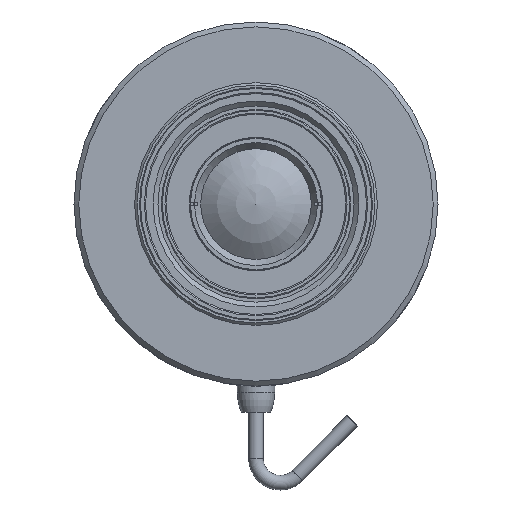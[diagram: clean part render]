
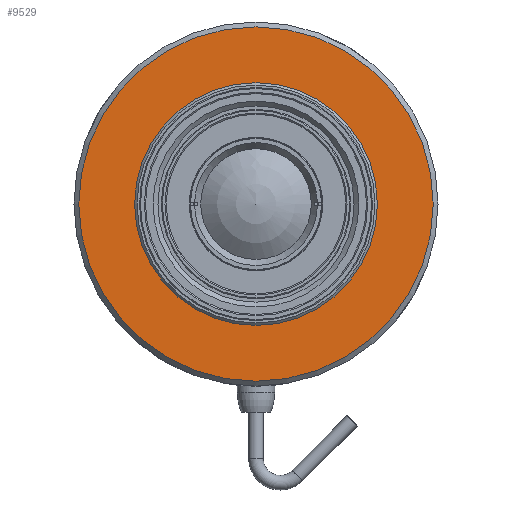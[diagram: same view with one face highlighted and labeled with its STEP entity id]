
A CAD part, front view. The second image highlights one B-rep face of the part: STEP entity #9529.
In plain terms, the highlighted planar face has unit normal (0, -1, 0).
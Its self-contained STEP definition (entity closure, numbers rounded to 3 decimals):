
#89=PLANE('',#9981);
#384=CIRCLE('',#9982,36.5);
#385=CIRCLE('',#9983,25.);
#1915=ORIENTED_EDGE('',*,*,#3702,.F.);
#1916=ORIENTED_EDGE('',*,*,#3703,.F.);
#3702=EDGE_CURVE('',#4594,#4594,#384,.T.);
#3703=EDGE_CURVE('',#4595,#4595,#385,.T.);
#4594=VERTEX_POINT('',#12652);
#4595=VERTEX_POINT('',#12654);
#5277=EDGE_LOOP('',(#1915));
#5278=EDGE_LOOP('',(#1916));
#5883=FACE_BOUND('',#5277,.T.);
#5884=FACE_BOUND('',#5278,.T.);
#9529=ADVANCED_FACE('',(#5883,#5884),#89,.F.);
#9981=AXIS2_PLACEMENT_3D('',#12650,#10658,#10659);
#9982=AXIS2_PLACEMENT_3D('',#12651,#10660,#10661);
#9983=AXIS2_PLACEMENT_3D('',#12653,#10662,#10663);
#10658=DIRECTION('',(0.,1.,0.));
#10659=DIRECTION('',(0.,0.,1.));
#10660=DIRECTION('',(0.,1.,0.));
#10661=DIRECTION('',(0.,0.,1.));
#10662=DIRECTION('',(0.,-1.,0.));
#10663=DIRECTION('',(0.,0.,-1.));
#12650=CARTESIAN_POINT('',(0.,-57.26,37.5));
#12651=CARTESIAN_POINT('',(0.,-57.26,0.));
#12652=CARTESIAN_POINT('',(0.,-57.26,36.5));
#12653=CARTESIAN_POINT('',(0.,-57.26,0.));
#12654=CARTESIAN_POINT('',(0.,-57.26,-25.));
